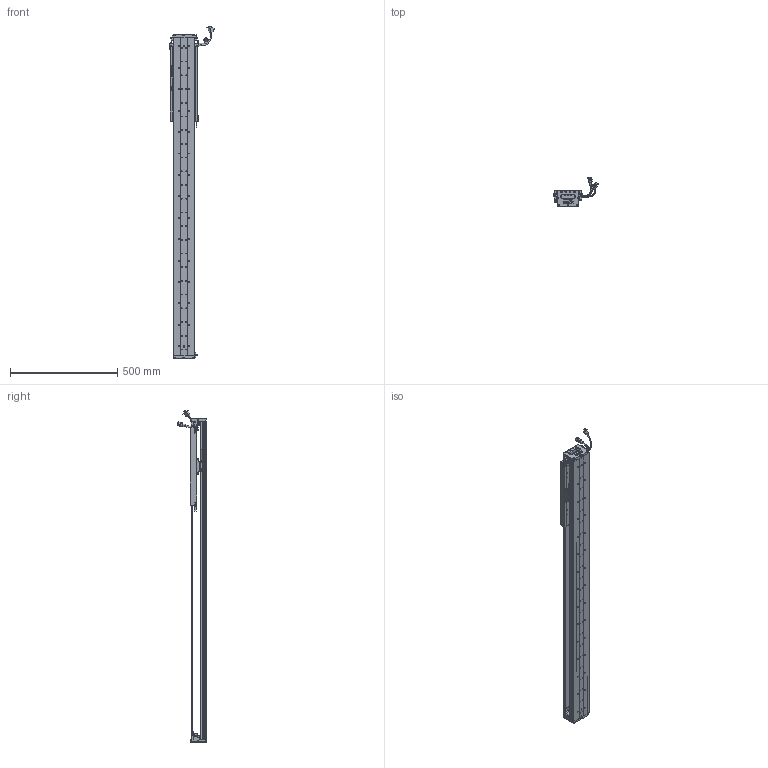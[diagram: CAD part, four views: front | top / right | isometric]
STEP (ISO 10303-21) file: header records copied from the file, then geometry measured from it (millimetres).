
FILE_DESCRIPTION (( 'STEP AP203' ), '1' );
FILE_NAME ('Z5-RY100D-1-L500-B-K.SLDASM_1050.step', '2021-05-17T03:33:03', ( '盈信电脑' ), ( '东莞市道滘镇水果街19号' ), 'SwSTEP 2.0', 'SolidWorks 2016', '' );
FILE_SCHEMA (( 'CONFIG_CONTROL_DESIGN' ));
Length unit declared in the file: millimetre
Products named in the file (36): SEAL; Z5-RY100D-1-L500-B-K.SLDASM_1050; SCREW-M1.7; 080黍杅芛假蚾釱21遴; LABEL-Part-1; SCREW-M1.7-1; 140蚥薯蝶輸; HOLDER0; SHIELDPLATE; HARNESS-Part-1; SCALE; COVER; SCREW-M1.6-1; Z5-RY100D-500-倰第菁釱_1050; Z-100詩湍傷裔啣; 140雄赽晤鎢ん堤盄; Z-RY100D詩湍奻揤裔; LABEL; PSLH080_PSLF2; HARNESS; 覜茼ん672; COVER-Part-1; SCREW-M1.6; Z-RY100D覜茼んえ; SCALE-Part-1; Z5-RY100铝滑块（21款）; HARNESS-Part-2; SEAL-Part-1; SCREW-M1.6-3; Z-RY100D詩湍狟揤裔; PBU_SHEET; 100-Z-臏賑輸盄裔(21遴); Z5-RY100-L500詩湍90mm遵_1050; 榋妏寠巭燃_暯_M2_2; SCALE-Part-2; SCREW-M1.6-2
Assembly tree (43 placements, depth 4):
  Z5-RY100D-1-L500-B-K.SLDASM_1050
    Z5-RY100D-500-倰第菁釱_1050
    Z5-RY100铝滑块（21款）
    PSLH080_PSLF2
      SCALE
        SCALE-Part-1
        SCALE-Part-2
      HARNESS
        HARNESS-Part-1
        HARNESS-Part-2
      LABEL
        LABEL-Part-1
      COVER
        COVER-Part-1
      SEAL
        SEAL-Part-1
      榋妏寠巭燃_暯_M2_2
      SHIELDPLATE
      SCREW-M1.7
      SCREW-M1.7-1
      PBU_SHEET
      SCREW-M1.6
      SCREW-M1.6-1
      SCREW-M1.6-2
      SCREW-M1.6-3
      HOLDER0
    080黍杅芛假蚾釱21遴
    Z-100詩湍傷裔啣  x2
    140蚥薯蝶輸  x2
    覜茼ん672  x3
    Z-RY100D覜茼んえ  x3
    100-Z-臏賑輸盄裔(21遴)
    140雄赽晤鎢ん堤盄
    Z5-RY100-L500詩湍90mm遵_1050
    Z-RY100D詩湍狟揤裔  x2
    Z-RY100D詩湍奻揤裔  x2
Bounding box: 205.84 x 136.11 x 1550.43 mm (x, y, z)
Volume: 3308742.2 mm3; surface area: 1245844.7 mm2
Topology: 38 solids, 38 shells, 2715 faces, 7207 edges, 4572 vertices
Faces by surface type: cylinder 1226, plane 1141, cone 226, torus 69, bspline 53
Entity records: 75253 total; most frequent: CARTESIAN_POINT 15811, DIRECTION 11997, ORIENTED_EDGE 11294, EDGE_CURVE 5647, AXIS2_PLACEMENT_3D 4446, VERTEX_POINT 3640, LINE 3105, VECTOR 3105
